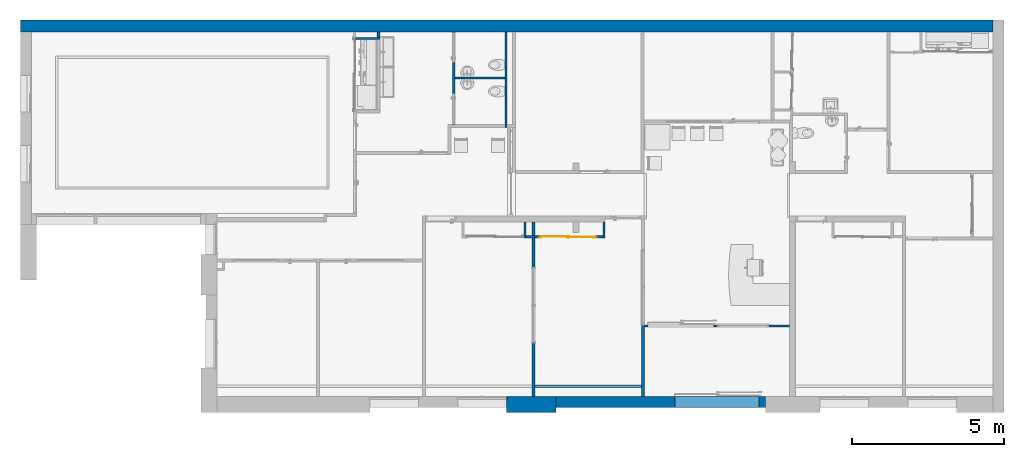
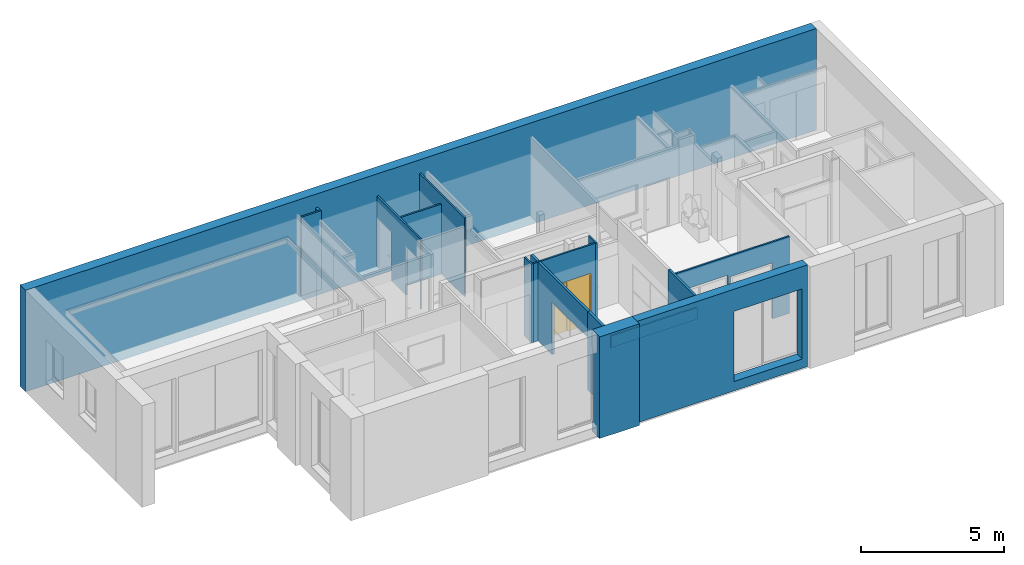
# One storey, part 10 of 32: 18 walls, 1 door, 9 openings.
"""IFC2X3 building model written with IfcOpenShell, lengths in metres."""

from ifc_helpers import new_model, entity, si_unit, converted_unit, derived_unit, direction, frame, frame_2d, origin, origin_2d_with_axis, place, context, subcontext, project, spatial, polyline, circle_curve, parameter, trimmed, segment, composite_curve, rectangle, outline, extrude, faceted_brep, source, transform, mapped, material, material_list, layer, layer_set, layer_usage, type_object, type_shapes, element, fill, save


model = new_model("IFC2X3")

# Units and contexts
model_context = context("Model", 3, precision=1e-05, world=origin(), true_north=direction((6.12303176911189e-17, 1.0)))
plan_context = context("Plan", 3, precision=1e-05, world=origin(), true_north=direction((6.12303176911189e-17, 1.0)))
body_context = subcontext(model_context, "Body", "Model", "MODEL_VIEW")
ifc_project = project(units=[si_unit("LENGTHUNIT", "METRE"), si_unit("AREAUNIT", "SQUARE_METRE"), si_unit("VOLUMEUNIT", "CUBIC_METRE"), converted_unit("PLANEANGLEUNIT", "DEGREE", entity("IfcRatioMeasure", 0.0174532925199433), si_unit("PLANEANGLEUNIT", "RADIAN"), dimensions=[0, 0, 0, 0, 0, 0, 0]), si_unit("MASSUNIT", "GRAM", prefix="KILO"), derived_unit("MASSDENSITYUNIT", [(si_unit("MASSUNIT", "GRAM", prefix="KILO"), 1), (si_unit("LENGTHUNIT", "METRE"), -3)]), derived_unit("MOMENTOFINERTIAUNIT", [(si_unit("LENGTHUNIT", "METRE"), 4)]), si_unit("TIMEUNIT", "SECOND"), si_unit("FREQUENCYUNIT", "HERTZ"), si_unit("THERMODYNAMICTEMPERATUREUNIT", "DEGREE_CELSIUS"), derived_unit("THERMALTRANSMITTANCEUNIT", [(si_unit("MASSUNIT", "GRAM", prefix="KILO"), 1), (si_unit("THERMODYNAMICTEMPERATUREUNIT", "KELVIN"), -1), (si_unit("TIMEUNIT", "SECOND"), -3)]), derived_unit("VOLUMETRICFLOWRATEUNIT", [(si_unit("LENGTHUNIT", "METRE"), 3), (si_unit("TIMEUNIT", "SECOND"), -1)]), si_unit("ELECTRICCURRENTUNIT", "AMPERE"), si_unit("ELECTRICVOLTAGEUNIT", "VOLT"), si_unit("POWERUNIT", "WATT"), si_unit("FORCEUNIT", "NEWTON", prefix="KILO"), si_unit("ILLUMINANCEUNIT", "LUX"), si_unit("LUMINOUSFLUXUNIT", "LUMEN"), si_unit("LUMINOUSINTENSITYUNIT", "CANDELA"), derived_unit("USERDEFINED", [(si_unit("MASSUNIT", "GRAM", prefix="KILO"), -1), (si_unit("LENGTHUNIT", "METRE"), -2), (si_unit("TIMEUNIT", "SECOND"), 3), (si_unit("LUMINOUSFLUXUNIT", "LUMEN"), 1)]), derived_unit("LINEARVELOCITYUNIT", [(si_unit("LENGTHUNIT", "METRE"), 1), (si_unit("TIMEUNIT", "SECOND"), -1)]), si_unit("PRESSUREUNIT", "PASCAL"), derived_unit("USERDEFINED", [(si_unit("LENGTHUNIT", "METRE"), -2), (si_unit("MASSUNIT", "GRAM", prefix="KILO"), 1), (si_unit("TIMEUNIT", "SECOND"), -2)]), derived_unit("LINEARFORCEUNIT", [(si_unit("MASSUNIT", "GRAM", prefix="KILO"), 1), (si_unit("LENGTHUNIT", "METRE"), 1), (si_unit("TIMEUNIT", "SECOND"), -2), (si_unit("LENGTHUNIT", "METRE"), -1)]), derived_unit("PLANARFORCEUNIT", [(si_unit("MASSUNIT", "GRAM", prefix="KILO"), 1), (si_unit("LENGTHUNIT", "METRE"), 1), (si_unit("TIMEUNIT", "SECOND"), -2), (si_unit("LENGTHUNIT", "METRE"), -2)])], contexts=[model_context, plan_context])

# Site, building, storey
site_placement = place(None, origin())
site = spatial("IfcSite", under=ifc_project, at=site_placement, Name="Default", CompositionType="ELEMENT")
building_placement = place(site_placement, origin())
building = spatial("IfcBuilding", under=site, at=building_placement, CompositionType="ELEMENT")
storey_placement = place(building_placement, origin())
storey = spatial("IfcBuildingStorey", under=building, at=storey_placement, Name="0 Mairie RDC 0.00", CompositionType="ELEMENT", Elevation=-1.94916083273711e-14)

# Wall
ifc_material_1 = material(Name="Plâtre")
ifc_layer_1 = layer(ifc_material_1, 0.0125)
ifc_layer_2 = layer(ifc_material_1, 0.0125)
ifc_material_2 = material(Name="Maçonnerie - Isolant")
ifc_layer_3 = layer(ifc_material_2, 0.05)
ifc_layer_4 = layer(ifc_material_1, 0.0125)
ifc_layer_5 = layer(ifc_material_1, 0.0125)
ifc_layer_set_1 = layer_set([ifc_layer_1, ifc_layer_2, ifc_layer_3, ifc_layer_4, ifc_layer_5], Name="Mur de base:A cloison placostil 98 sèche")
ifc_layer_usage_1 = layer_usage(ifc_layer_set_1, "AXIS2", "NEGATIVE", 0.05)
wall_type_1 = type_object("IfcWallType", Name="Murs : Mur de base : A cloison placostil 98 sèche", PredefinedType="STANDARD", material=ifc_layer_set_1)
wall_1_placement = place(storey_placement, frame((-9.75464553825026, -13.9785662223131, 0.0), z_axis=(0.0, 0.0, 1.0), x_axis=(0.0, 1.0, 0.0)))
element("IfcWallStandardCase", 1, at=wall_1_placement, inside=storey, type_object=wall_type_1, material=ifc_layer_usage_1, Name="Murs : Mur de base : A cloison placostil 98 sèche", ObjectType="Mur de base:A cloison placostil 98 sèche", context=body_context, shape_type="SweptSolid", body=[
    extrude(rectangle(XDim=2.34998283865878, YDim=0.0999999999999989, at=frame_2d((1.17499141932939, 0.0), x_axis=(-1.0, 0.0))), origin(), (0.0, 0.0, 1.0), 3.54),
])

# Wall, openings
ifc_layer_usage_2 = layer_usage(ifc_layer_set_1, "AXIS2", "NEGATIVE", 0.05)
wall_2_placement = place(storey_placement, frame((-13.3542550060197, -12.2287534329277, 0.0), z_axis=(0.0, 0.0, 1.0), x_axis=(0.0, 1.0, 0.0)))
wall_2 = element("IfcWallStandardCase", 2, at=wall_2_placement, inside=storey, type_object=wall_type_1, material=ifc_layer_usage_2, Name="Murs : Mur de base : A cloison placostil 98 sèche", ObjectType="Mur de base:A cloison placostil 98 sèche", context=body_context, shape_type="SweptSolid", body=[
    extrude(rectangle(XDim=3.47597684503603, YDim=0.0999999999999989, at=frame_2d((1.73798842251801, 0.0), x_axis=(-1.0, 0.0))), origin(), (0.0, 0.0, 1.0), 3.37),
])
opening_1_placement = place(wall_2_placement, frame((-1.15515589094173e-05, 0.202400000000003, 0.0)))
element("IfcOpeningElement", 3, at=opening_1_placement, cuts=wall_2, Name="Murs : Mur de base : A cloison placostil 98 sèche", ObjectType="Opening", context=body_context, shape_type="SweptSolid", body=[
    extrude(rectangle(XDim=2.25, YDim=2.5, at=origin_2d_with_axis()), frame((1.25, -0.404800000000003, 1.125), z_axis=(0.0, 1.0, 0.0), x_axis=(0.0, 0.0, 1.0)), (0.0, 0.0, 1.0), 0.404800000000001),
])
opening_2_placement = place(wall_2_placement, origin())
element("IfcOpeningElement", 4, at=opening_2_placement, cuts=wall_2, Name="Mur de base:A cloison placostil 98 sèche", ObjectType="Opening", context=body_context, shape_type="SweptSolid", body=[
    extrude(rectangle(XDim=2.08, YDim=2.49998844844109, at=origin_2d_with_axis()), frame((1.24999422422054, 0.0499999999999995, 1.04), z_axis=(0.0, -1.0, 0.0), x_axis=(0.0, 0.0, -1.0)), (0.0, 0.0, 1.0), 0.1),
])

# Walls
ifc_layer_usage_3 = layer_usage(ifc_layer_set_1, "AXIS2", "NEGATIVE", 0.05)
wall_3_placement = place(storey_placement, frame((-13.3542550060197, -13.9785662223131, 0.0), z_axis=(0.0, 0.0, 1.0), x_axis=(0.0, 1.0, 0.0)))
element("IfcWallStandardCase", 5, at=wall_3_placement, inside=storey, type_object=wall_type_1, material=ifc_layer_usage_3, Name="Murs : Mur de base : A cloison placostil 98 sèche", ObjectType="Mur de base:A cloison placostil 98 sèche", context=body_context, shape_type="SweptSolid", body=[
    extrude(rectangle(XDim=1.74981278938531, YDim=0.0999999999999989, at=frame_2d((0.874906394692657, 0.0), x_axis=(-1.0, 0.0))), origin(), (0.0, 0.0, 1.0), 3.37),
])
ifc_layer_usage_4 = layer_usage(ifc_layer_set_1, "AXIS2", "POSITIVE", -0.05)
wall_4_placement = place(storey_placement, frame((-13.3542550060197, -8.23276374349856, 0.0), z_axis=(0.0, 0.0, 1.0), x_axis=(0.0, -1.0, 0.0)))
element("IfcWallStandardCase", 6, at=wall_4_placement, inside=storey, type_object=wall_type_1, material=ifc_layer_usage_4, Name="Murs : Mur de base : A cloison placostil 98 sèche", ObjectType="Mur de base:A cloison placostil 98 sèche", context=body_context, shape_type="SweptSolid", body=[
    extrude(rectangle(XDim=0.450012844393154, YDim=0.0999999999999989, at=frame_2d((0.225006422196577, 0.0), x_axis=(-1.0, 0.0))), origin(), (0.0, 0.0, 1.0), 3.37),
])
ifc_layer_usage_5 = layer_usage(ifc_layer_set_1, "AXIS2", "NEGATIVE", 0.05)
wall_5_placement = place(storey_placement, frame((-18.4621823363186, -2.15276374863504, 0.0), z_axis=(0.0, 0.0, 1.0), x_axis=(0.0, 1.0, 0.0)))
element("IfcWallStandardCase", 7, at=wall_5_placement, inside=storey, type_object=wall_type_1, material=ifc_layer_usage_5, Name="Murs : Mur de base : A cloison placostil 98 sèche", ObjectType="Mur de base:A cloison placostil 98 sèche", context=body_context, shape_type="SweptSolid", body=[
    extrude(rectangle(XDim=0.18000000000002, YDim=0.0999999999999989, at=frame_2d((0.0900000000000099, 1.52655665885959e-16), x_axis=(-1.0, 0.0))), origin(), (0.0, 0.0, 1.0), 3.37),
])

# Wall, openings
ifc_layer_6 = layer(ifc_material_1, 0.01)
ifc_layer_7 = layer(ifc_material_2, 0.05)
ifc_layer_8 = layer(ifc_material_1, 0.01)
ifc_layer_set_2 = layer_set([ifc_layer_6, ifc_layer_7, ifc_layer_8], Name="Mur de base:A cloison placostil 72 sèche")
ifc_layer_usage_6 = layer_usage(ifc_layer_set_2, "AXIS2", "POSITIVE", -0.035)
wall_type_2 = type_object("IfcWallType", Name="Murs : Mur de base : A cloison placostil 72 sèche", PredefinedType="STANDARD", material=ifc_layer_set_2)
wall_6_placement = place(storey_placement, frame((-9.70464553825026, -11.6635833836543, 0.0)))
wall_6 = element("IfcWallStandardCase", 8, at=wall_6_placement, inside=storey, type_object=wall_type_2, material=ifc_layer_usage_6, Name="Murs : Mur de base : A cloison placostil 72 sèche", ObjectType="Mur de base:A cloison placostil 72 sèche", context=body_context, shape_type="SweptSolid", body=[
    extrude(rectangle(XDim=4.77714883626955, YDim=0.0700000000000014, at=frame_2d((2.38857441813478, 0.0), x_axis=(-1.0, 0.0))), origin(), (0.0, 0.0, 1.0), 3.3),
])
opening_3_placement = place(wall_6_placement, frame((4.09925722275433, 0.0350000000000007, 0.0)))
element("IfcOpeningElement", 9, at=opening_3_placement, cuts=wall_6, Name="Fenêtres : WINDSOR Window Fixed Signature : Fixed-Window_B02M1S100100-White 170:1", ObjectType="Opening", context=body_context, shape_type="SweptSolid", body=[
    extrude(rectangle(XDim=2.4, YDim=1.7, at=frame_2d((1.2, 0.85), x_axis=(-1.0, 0.0))), frame((0.0, 0.0, 0.0), z_axis=(0.0, -1.0, 0.0), x_axis=(0.0, 0.0, 1.0)), (0.0, 0.0, 1.0), 0.07),
])
opening_4_placement = place(wall_6_placement, frame((2.27999999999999, 0.0350000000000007, 0.0)))
element("IfcOpeningElement", 10, at=opening_4_placement, cuts=wall_6, Name="Portes : Automatic-Door_Single_Gilgen_SL-PSXP_With-Side-Panel_On-Wall : Automatic-Door_Single_Gilgen_SL-PSXP_ht2,50m:1", ObjectType="Opening", context=body_context, shape_type="SweptSolid", body=[
    extrude(rectangle(XDim=2.50000000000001, YDim=2.16, at=frame_2d((1.25, 1.08), x_axis=(1.0, 0.0))), frame((0.0, 0.0, 0.0), z_axis=(0.0, -1.0, 0.0), x_axis=(0.0, 0.0, 1.0)), (0.0, 0.0, 1.0), 0.07),
])

# Wall
ifc_layer_usage_7 = layer_usage(ifc_layer_set_2, "AXIS2", "NEGATIVE", 0.035)
wall_7_placement = place(storey_placement, frame((-11.0381086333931, -8.75261308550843, 0.0), z_axis=(0.0, 0.0, 1.0), x_axis=(0.0, 1.0, 0.0)))
element("IfcWallStandardCase", 11, at=wall_7_placement, inside=storey, type_object=wall_type_2, material=ifc_layer_usage_7, Name="Murs : Mur de base : A cloison placostil 72 sèche", ObjectType="Mur de base:A cloison placostil 72 sèche", context=body_context, shape_type="SweptSolid", body=[
    extrude(rectangle(XDim=0.51984934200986, YDim=0.0700000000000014, at=frame_2d((0.25992467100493, 0.0), x_axis=(-1.0, 0.0))), origin(), (0.0, 0.0, 1.0), 3.37),
])

# Wall, opening, door
ifc_layer_usage_8 = layer_usage(ifc_layer_set_2, "AXIS2", "NEGATIVE", 0.035)
wall_8_placement = place(storey_placement, frame((-13.3042550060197, -8.71761308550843, 0.0)))
wall_8 = element("IfcWallStandardCase", 12, at=wall_8_placement, inside=storey, type_object=wall_type_2, material=ifc_layer_usage_8, Name="Murs : Mur de base : A cloison placostil 72 sèche", ObjectType="Mur de base:A cloison placostil 72 sèche", context=body_context, shape_type="SweptSolid", body=[
    extrude(rectangle(XDim=2.23114637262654, YDim=0.0699999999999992, at=frame_2d((1.11557318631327, 2.77555756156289e-16), x_axis=(-1.0, 0.0))), origin(), (0.0, 0.0, 1.0), 3.37),
])
opening_5_placement = place(wall_8_placement, frame((1.99057318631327, 0.0350000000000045, 0.0)))
opening_5 = element("IfcOpeningElement", 13, at=opening_5_placement, cuts=wall_8, Name="Portes : Placard coulissante - 2 panneaux : Placard coulissante - 2 panneaux 1.80:1", ObjectType="Opening", context=body_context, shape_type="SweptSolid", body=[
    extrude(rectangle(XDim=2.09999999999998, YDim=1.8, at=frame_2d((1.04999999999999, 0.9), x_axis=(1.0, 0.0))), frame((0.0, 0.0, 0.0), z_axis=(0.0, -1.0, 0.0), x_axis=(0.0, 0.0, 1.0)), (0.0, 0.0, 1.0), 0.07),
])
ifc_material_3 = material(Name="Placard - Profil")
ifc_material_4 = material(Name="Placard - Encadrement")
ifc_material_5 = material(Name="Placard - Porte")
ifc_material_list_1 = material_list([ifc_material_3, ifc_material_4, ifc_material_5])
ifc_material_list_2 = material_list([ifc_material_3, ifc_material_3, ifc_material_3, ifc_material_3, ifc_material_4, ifc_material_5, ifc_material_5])
door_style = type_object("IfcDoorStyle", Name="Portes : Placard coulissante - 2 panneaux : Placard coulissante - 2 panneaux 1.80", ConstructionType="NOTDEFINED", OperationType="SLIDING_TO_RIGHT", ParameterTakesPrecedence=False, Sizeable=False, material=ifc_material_list_2)
shared_shape = source(origin(), body_context, "Body", "SweptSolid", [
    extrude(outline(composite_curve([segment(polyline([(-0.0250000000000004, -0.00100000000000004), (0.0249999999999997, -0.00100000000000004)]), True, "CONTINUOUS"), segment(polyline([(0.0249999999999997, -0.00100000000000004), (0.0249999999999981, 0.00100000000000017)]), True, "CONTINUOUS"), segment(trimmed(circle_curve(frame_2d((0.0, -0.212860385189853), x_axis=(-1.0, 0.0)), 0.215316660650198), [parameter(263.332459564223)], [parameter(276.667540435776)], True, "PARAMETER"), True, "CONTINUOUS"), segment(polyline([(-0.0250000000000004, 0.00100000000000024), (-0.0250000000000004, -0.00100000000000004)]), True, "CONTINUOUS")], self_intersect=False)), frame((1.775, 0.0089999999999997, 0.0), z_axis=(0.0, 0.0, 1.0), x_axis=(-1.0, 0.0, 0.0)), (0.0, 0.0, 1.0), 2.1),
    extrude(outline(composite_curve([segment(polyline([(-0.0250000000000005, -0.00100000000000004), (0.0249999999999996, -0.00100000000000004)]), True, "CONTINUOUS"), segment(polyline([(0.0249999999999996, -0.00100000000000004), (0.0249999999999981, 0.00100000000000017)]), True, "CONTINUOUS"), segment(trimmed(circle_curve(frame_2d((0.0, -0.212860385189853), x_axis=(-1.0, 0.0)), 0.215316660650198), [parameter(263.332459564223)], [parameter(276.667540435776)], True, "PARAMETER"), True, "CONTINUOUS"), segment(polyline([(-0.0250000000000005, 0.00100000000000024), (-0.0250000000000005, -0.00100000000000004)]), True, "CONTINUOUS")], self_intersect=False)), frame((0.899999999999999, 0.00900000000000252, 0.0), z_axis=(0.0, 0.0, 1.0), x_axis=(-1.0, 0.0, 0.0)), (0.0, 0.0, 1.0), 2.1),
    extrude(outline(composite_curve([segment(polyline([(-0.0250000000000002, -0.00100000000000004), (0.0249999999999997, -0.00100000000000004)]), True, "CONTINUOUS"), segment(polyline([(0.0249999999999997, -0.00100000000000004), (0.0249999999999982, 0.00100000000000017)]), True, "CONTINUOUS"), segment(trimmed(circle_curve(frame_2d((0.0, -0.212860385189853), x_axis=(-1.0, 0.0)), 0.215316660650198), [parameter(263.332459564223)], [parameter(276.667540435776)], True, "PARAMETER"), True, "CONTINUOUS"), segment(polyline([(-0.0250000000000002, 0.00100000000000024), (-0.0250000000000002, -0.00100000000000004)]), True, "CONTINUOUS")], self_intersect=False)), frame((0.899999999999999, 0.0340000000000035, 0.0), z_axis=(0.0, 0.0, 1.0), x_axis=(-1.0, 0.0, 0.0)), (0.0, 0.0, 1.0), 2.1),
    extrude(outline(composite_curve([segment(polyline([(-0.0250000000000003, -0.00100000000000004), (0.0249999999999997, -0.00100000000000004)]), True, "CONTINUOUS"), segment(polyline([(0.0249999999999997, -0.00100000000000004), (0.0249999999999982, 0.00100000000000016)]), True, "CONTINUOUS"), segment(trimmed(circle_curve(frame_2d((0.0, -0.212860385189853), x_axis=(-1.0, 0.0)), 0.215316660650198), [parameter(263.332459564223)], [parameter(276.667540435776)], True, "PARAMETER"), True, "CONTINUOUS"), segment(polyline([(-0.0250000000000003, 0.00100000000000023), (-0.0250000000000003, -0.00100000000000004)]), True, "CONTINUOUS")], self_intersect=False)), frame((0.0249999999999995, 0.0340000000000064, 0.0), z_axis=(0.0, 0.0, 1.0), x_axis=(-1.0, 0.0, 0.0)), (0.0, 0.0, 1.0), 2.1),
    extrude(outline(polyline([(-1.06149999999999, -0.948), (1.08649999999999, -0.948), (1.08649999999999, 0.948), (-1.06149999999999, 0.948), (-1.06149999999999, 0.898), (1.03649999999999, 0.898), (1.03649999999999, -0.898), (-1.06149999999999, -0.898), (-1.06149999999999, -0.948)])), frame((0.9, -0.00300000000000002, 1.06149999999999), z_axis=(0.0, 1.0, 0.0), x_axis=(0.0, 0.0, 1.0)), (0.0, 0.0, 1.0), 0.00300000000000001),
    extrude(rectangle(XDim=0.020000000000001, YDim=0.925000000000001, at=frame_2d((0.0, -8.32667268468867e-17), x_axis=(1.0, 0.0))), frame((1.3375, 0.0200000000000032, 0.0), z_axis=(0.0, 0.0, 1.0), x_axis=(0.0, 1.0, 0.0)), (0.0, 0.0, 1.0), 2.1),
    extrude(rectangle(XDim=0.02, YDim=0.924999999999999, at=origin_2d_with_axis()), frame((0.462499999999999, 0.0450000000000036, 0.0), z_axis=(0.0, 0.0, 1.0), x_axis=(0.0, 1.0, 0.0)), (0.0, 0.0, 1.0), 2.1),
])
type_shapes(door_style, [shared_shape])
door_placement = place(opening_5_placement, frame((-1.8, -0.0700000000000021, 0.0)))
door = element("IfcDoor", 14, at=door_placement, inside=storey, type_object=door_style, material=ifc_material_list_1, Name="Portes : Placard coulissante - 2 panneaux : Placard coulissante - 2 panneaux 1.80", ObjectType="Placard coulissante - 2 panneaux:Placard coulissante - 2 panneaux 1.80", OverallHeight=2.09999999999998, OverallWidth=1.8, context=body_context, shape_type="MappedRepresentation", body=[
    mapped(shared_shape, transform((0.0, 0.0, 0.0), scale=1.0)),
])
fill(opening_5, door)

# Walls
ifc_layer_usage_9 = layer_usage(ifc_layer_set_2, "AXIS2", "POSITIVE", -0.035)
wall_9_placement = place(storey_placement, frame((-18.4121823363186, -2.18776374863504, 0.0), z_axis=(0.0, 0.0, 1.0), x_axis=(-1.0, 0.0, 0.0)))
element("IfcWallStandardCase", 15, at=wall_9_placement, inside=storey, type_object=wall_type_2, material=ifc_layer_usage_9, Name="Murs : Mur de base : A cloison placostil 72 sèche", ObjectType="Mur de base:A cloison placostil 72 sèche", context=body_context, shape_type="SweptSolid", body=[
    extrude(rectangle(XDim=0.800000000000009, YDim=0.0699999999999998, at=frame_2d((0.400000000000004, 2.08166817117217e-17), x_axis=(-1.0, 0.0))), origin(), (0.0, 0.0, 1.0), 3.37),
])
ifc_layer_usage_10 = layer_usage(ifc_layer_set_2, "AXIS2", "NEGATIVE", 0.035)
wall_10_placement = place(storey_placement, frame((-14.2617760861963, -1.97276374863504, 0.0), z_axis=(0.0, 0.0, 1.0), x_axis=(0.0, -1.0, 0.0)))
element("IfcWallStandardCase", 16, at=wall_10_placement, inside=storey, type_object=wall_type_2, material=ifc_layer_usage_10, Name="Murs : Mur de base : A cloison placostil 72 sèche", ObjectType="Mur de base:A cloison placostil 72 sèche", context=body_context, shape_type="SweptSolid", body=[
    extrude(rectangle(XDim=3.1471581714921, YDim=0.0700000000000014, at=frame_2d((1.57357908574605, 7.28583859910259e-17), x_axis=(-1.0, 0.0))), origin(), (0.0, 0.0, 1.0), 3.37),
])

# Wall, openings
ifc_layer_usage_11 = layer_usage(ifc_layer_set_2, "AXIS2", "NEGATIVE", 0.035)
wall_11_placement = place(storey_placement, frame((-15.9809503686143, -1.97276374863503, 0.0), z_axis=(0.0, 0.0, 1.0), x_axis=(0.0, -1.0, 0.0)))
wall_11 = element("IfcWallStandardCase", 17, at=wall_11_placement, inside=storey, type_object=wall_type_2, material=ifc_layer_usage_11, Name="Murs : Mur de base : A cloison placostil 72 sèche", ObjectType="Mur de base:A cloison placostil 72 sèche", context=body_context, shape_type="SweptSolid", body=[
    extrude(rectangle(XDim=3.04715817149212, YDim=0.0700000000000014, at=frame_2d((1.52357908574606, -1.73472347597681e-17), x_axis=(-1.0, 0.0))), origin(), (0.0, 0.0, 1.0), 3.0),
])
opening_6_placement = place(wall_11_placement, frame((1.01499999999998, 0.0349999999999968, 0.0)))
element("IfcOpeningElement", 18, at=opening_6_placement, cuts=wall_11, Name="Portes : Int. Simple : PP (0.89m x 2.04m):1", ObjectType="Opening", context=body_context, shape_type="SweptSolid", body=[
    extrude(rectangle(XDim=2.075, YDim=1.0, at=frame_2d((1.0375, 0.5), x_axis=(1.0, 0.0))), frame((0.0, 0.0, 0.0), z_axis=(0.0, -1.0, 0.0), x_axis=(0.0, 0.0, 1.0)), (0.0, 0.0, 1.0), 0.07),
])
opening_7_placement = place(wall_11_placement, frame((3.03215817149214, 0.0349999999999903, 0.0)))
element("IfcOpeningElement", 19, at=opening_7_placement, cuts=wall_11, Name="Portes : Int. Simple : PP (0.89m x 2.04m):1", ObjectType="Opening", context=body_context, shape_type="SweptSolid", body=[
    extrude(rectangle(XDim=2.075, YDim=1.0, at=frame_2d((1.0375, 0.5), x_axis=(1.0, 0.0))), frame((0.0, 0.0, 0.0), z_axis=(0.0, -1.0, 0.0), x_axis=(0.0, 0.0, 1.0)), (0.0, 0.0, 1.0), 0.07),
])

# Walls
ifc_layer_usage_12 = layer_usage(ifc_layer_set_2, "AXIS2", "NEGATIVE", 0.035)
wall_12_placement = place(storey_placement, frame((-15.9459503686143, -3.48634283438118, 0.0)))
element("IfcWallStandardCase", 20, at=wall_12_placement, inside=storey, type_object=wall_type_2, material=ifc_layer_usage_12, Name="Murs : Mur de base : A cloison placostil 72 sèche", ObjectType="Mur de base:A cloison placostil 72 sèche", context=body_context, shape_type="SweptSolid", body=[
    extrude(rectangle(XDim=1.64917428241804, YDim=0.0700000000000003, at=frame_2d((0.82458714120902, -1.73472347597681e-17), x_axis=(-1.0, 0.0))), origin(), (0.0, 0.0, 1.0), 3.0),
])
ifc_layer_usage_13 = layer_usage(ifc_layer_set_2, "AXIS2", "NEGATIVE", 0.035)
wall_13_placement = place(storey_placement, frame((-13.6368498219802, -8.23276374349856, 0.0), z_axis=(0.0, 0.0, 1.0), x_axis=(0.0, -1.0, 0.0)))
element("IfcWallStandardCase", 21, at=wall_13_placement, inside=storey, type_object=wall_type_2, material=ifc_layer_usage_13, Name="Murs : Mur de base : A cloison placostil 72 sèche", ObjectType="Mur de base:A cloison placostil 72 sèche", context=body_context, shape_type="SweptSolid", body=[
    extrude(rectangle(XDim=0.520012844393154, YDim=0.0700000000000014, at=frame_2d((0.260006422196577, 0.0), x_axis=(-1.0, 0.0))), origin(), (0.0, 0.0, 1.0), 3.37),
])
ifc_layer_usage_14 = layer_usage(ifc_layer_set_2, "AXIS2", "NEGATIVE", 0.035)
wall_14_placement = place(storey_placement, frame((-13.6018498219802, -8.71777658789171, 0.0)))
element("IfcWallStandardCase", 22, at=wall_14_placement, inside=storey, type_object=wall_type_2, material=ifc_layer_usage_14, Name="Murs : Mur de base : A cloison placostil 72 sèche", ObjectType="Mur de base:A cloison placostil 72 sèche", context=body_context, shape_type="SweptSolid", body=[
    extrude(rectangle(XDim=0.297594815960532, YDim=0.0699999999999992, at=frame_2d((0.148797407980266, -2.67147415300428e-16), x_axis=(-1.0, 0.0))), origin(), (0.0, 0.0, 1.0), 3.37),
])
ifc_layer_usage_15 = layer_usage(ifc_layer_set_2, "AXIS2", "POSITIVE", -0.035)
wall_15_placement = place(storey_placement, frame((-13.3042550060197, -13.6435662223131, 2.65)))
element("IfcWallStandardCase", 23, at=wall_15_placement, inside=storey, type_object=wall_type_2, material=ifc_layer_usage_15, Name="Murs : Mur de base : A cloison placostil 72 sèche", ObjectType="Mur de base:A cloison placostil 72 sèche", context=body_context, shape_type="SweptSolid", body=[
    extrude(rectangle(XDim=3.49960946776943, YDim=0.0700000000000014, at=frame_2d((1.74980473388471, 1.07552855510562e-16), x_axis=(-1.0, 0.0))), origin(), (0.0, 0.0, 1.0), 0.510000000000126),
])

# Wall, opening
ifc_material_6 = material(Name="Maçonnerie - Enduit")
ifc_layer_9 = layer(ifc_material_6, 0.02)
ifc_material_7 = material(Name="Béton, coulé sur place")
ifc_layer_10 = layer(ifc_material_7, 0.2)
ifc_material_8 = material(Name="Vide")
ifc_layer_11 = layer(ifc_material_8, 0.01)
ifc_layer_12 = layer(ifc_material_2, 0.12)
ifc_layer_13 = layer(ifc_material_1, 0.01)
ifc_layer_set_3 = layer_set([ifc_layer_9, ifc_layer_10, ifc_layer_11, ifc_layer_12, ifc_layer_13], Name="Mur de base:A Enduit 2 + Béton 20 + vide 1 +  Doublage 13")
ifc_layer_usage_16 = layer_usage(ifc_layer_set_3, "AXIS2", "POSITIVE", -0.18)
wall_type_3 = type_object("IfcWallType", Name="Murs : Mur de base : A Enduit 2 + Béton 20 + vide 1 +  Doublage 13", PredefinedType="STANDARD", material=ifc_layer_set_3)
wall_16_placement = place(storey_placement, frame((-12.6185500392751, -14.158566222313, -0.400000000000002)))
wall_16 = element("IfcWallStandardCase", 24, at=wall_16_placement, inside=storey, type_object=wall_type_3, material=ifc_layer_usage_16, Name="Murs : Mur de base : A Enduit 2 + Béton 20 + vide 1 +  Doublage 13", ObjectType="Mur de base:A Enduit 2 + Béton 20 + vide 1 +  Doublage 13", context=body_context, shape_type="SweptSolid", body=[
    extrude(rectangle(XDim=6.90008941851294, YDim=0.36, at=frame_2d((3.45004470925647, 0.0), x_axis=(-1.0, 0.0))), origin(), (0.0, 0.0, 1.0), 4.35000000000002),
])
opening_8_placement = place(wall_16_placement, frame((6.68390450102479, 0.179999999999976, 0.399999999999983)))
element("IfcOpeningElement", 25, at=opening_8_placement, cuts=wall_16, Name="Portes : Automatic-Door_Single_Gilgen_SL-PSXP_With-Side-Panel_On-Wall : Automatic-Door_Single_Gilgen_SL-PSXP_ht3,00m:1", ObjectType="Opening", context=body_context, shape_type="SweptSolid", body=[
    extrude(rectangle(XDim=3.00000000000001, YDim=2.76, at=frame_2d((1.5, 1.38), x_axis=(1.0, 0.0))), frame((0.0, 0.0, 0.0), z_axis=(0.0, -1.0, 0.0), x_axis=(0.0, 0.0, 1.0)), (0.0, 0.0, 1.0), 0.36),
])

ifc_material_9 = material(Name="Moellons")
ifc_layer_14 = layer(ifc_material_9, 0.19)
ifc_layer_15 = layer(ifc_material_7, 0.2)
ifc_layer_16 = layer(ifc_material_8, 0.01)
ifc_layer_17 = layer(ifc_material_2, 0.12)
ifc_layer_18 = layer(ifc_material_1, 0.01)
ifc_layer_set_4 = layer_set([ifc_layer_14, ifc_layer_15, ifc_layer_16, ifc_layer_17, ifc_layer_18], Name="Mur de base:A Parement pierre 19 + Béton 20 + vide 1 +   Doublage 14")
ifc_layer_usage_17 = layer_usage(ifc_layer_set_4, "AXIS2", "POSITIVE", -0.265)
wall_type_4 = type_object("IfcWallType", Name="Murs : Mur de base : A Parement pierre 19 + Béton 20 + vide 1 +   Doublage 14", PredefinedType="STANDARD", material=ifc_layer_set_4)
wall_17_placement = place(storey_placement, frame((-14.2386355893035, -14.2435662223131, -0.400000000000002)))
wall_17 = element("IfcWallStandardCase", 26, at=wall_17_placement, inside=storey, type_object=wall_type_4, material=ifc_layer_usage_17, Name="Murs : Mur de base : A Parement pierre 19 + Béton 20 + vide 1 +   Doublage 14", ObjectType="Mur de base:A Parement pierre 19 + Béton 20 + vide 1 +   Doublage 14", context=body_context, shape_type="SweptSolid", body=[
    extrude(rectangle(XDim=1.62008555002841, YDim=0.530000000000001, at=frame_2d((0.810042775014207, 0.0), x_axis=(-1.0, 0.0))), origin(), (0.0, 0.0, 1.0), 4.35000000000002),
])
opening_9_placement = place(wall_17_placement, frame((-1.65, -0.415000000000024, 0.400000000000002)))
element("IfcOpeningElement", 27, at=opening_9_placement, cuts=wall_17, Name="Murs : Mur de base : A Parement pierre 19 + Béton 20 + vide 1 +   Doublage 14", ObjectType="Opening", context=body_context, shape_type="Brep", body=[
    faceted_brep([(1.65, 0.599999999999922, 0.035), (1.65, 0.579999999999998, 0.035), (1.65, 0.579999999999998, 3.185), (1.65, 0.0, 3.185), (1.65, 0.0, 0.0), (1.65, 0.266997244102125, 0.0), (0.0500000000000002, 1.0, 0.0350000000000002), (0.0499999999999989, 0.680000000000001, 0.0350000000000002), (0.0499999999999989, 0.680000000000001, 3.185), (0.0500000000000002, 1.0, 3.185), (1.65, 1.0, 0.0350000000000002), (1.65, 0.680000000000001, 0.0350000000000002), (1.7, 0.680000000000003, 0.0350000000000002), (1.7, 0.630000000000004, 0.0350000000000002), (1.66, 0.630000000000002, 0.0350000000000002), (1.66, 0.579999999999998, 0.0350000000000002), (0.0499999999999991, 0.599999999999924, 0.0349999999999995), (0.0499999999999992, 0.58, 0.0350000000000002), (0.0399999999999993, 0.58, 0.0350000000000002), (0.0399999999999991, 0.630000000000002, 0.0350000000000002), (0.0, 0.630000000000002, 0.0350000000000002), (0.0, 0.680000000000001, 0.0350000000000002), (1.65, 1.0, 3.185), (0.0499999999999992, 0.579999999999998, 3.185), (0.0499999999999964, 0.0, 3.185), (0.0499999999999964, 0.0, 0.0), (0.0499999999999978, 0.266997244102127, 0.0), (1.7, 0.680000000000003, 3.235), (1.7, 0.630000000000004, 3.235), (0.0, 0.630000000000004, 3.235), (0.0399999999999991, 0.630000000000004, 3.195), (1.66, 0.630000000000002, 3.195), (1.66, 0.579999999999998, 3.195), (0.0399999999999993, 0.58, 3.195), (1.65, 0.680000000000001, 3.185), (0.0, 0.680000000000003, 3.235)], [[[0, 1, 2, 3, 4, 5]], [[6, 7, 8, 9]], [[10, 11, 12, 13, 14, 15, 1, 0, 16, 17, 18, 19, 20, 21, 7, 6]], [[10, 6, 9, 22]], [[3, 2, 23, 24]], [[3, 24, 25, 4]], [[4, 25, 26, 5]], [[5, 26, 16, 0]], [[12, 27, 28, 13]], [[13, 28, 29, 20, 19, 30, 31, 14]], [[14, 31, 32, 15]], [[15, 32, 33, 18, 17, 23, 2, 1]], [[11, 34, 8, 7, 21, 35, 27, 12]], [[27, 35, 29, 28]], [[30, 33, 32, 31]], [[29, 35, 21, 20]], [[19, 18, 33, 30]], [[9, 8, 34, 22]], [[24, 23, 17, 16, 26, 25]], [[22, 34, 11, 10]]]),
])

# Wall
ifc_layer_19 = layer(ifc_material_7, 0.25)
ifc_layer_20 = layer(ifc_material_8, 0.01)
ifc_layer_21 = layer(ifc_material_2, 0.12)
ifc_layer_22 = layer(ifc_material_1, 0.01)
ifc_layer_set_5 = layer_set([ifc_layer_19, ifc_layer_20, ifc_layer_21, ifc_layer_22], Name="Mur de base:A  Béton 25 + vide 1 + Doublage 15")
ifc_layer_usage_18 = layer_usage(ifc_layer_set_5, "AXIS2", "POSITIVE", -0.195)
wall_type_5 = type_object("IfcWallType", Name="Murs : Mur de base : A  Béton 25 + vide 1 + Doublage 15", PredefinedType="STANDARD", material=ifc_layer_set_5)
wall_18_placement = place(storey_placement, frame((1.77761560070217, -1.7777637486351, -0.400000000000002), z_axis=(0.0, 0.0, 1.0), x_axis=(-1.0, 0.0, 0.0)))
element("IfcWallStandardCase", 28, at=wall_18_placement, inside=storey, type_object=wall_type_5, material=ifc_layer_usage_18, Name="Murs : Mur de base : A  Béton 25 + vide 1 + Doublage 15", ObjectType="Mur de base:A  Béton 25 + vide 1 + Doublage 15", context=body_context, shape_type="SweptSolid", body=[
    extrude(rectangle(XDim=32.0246305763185, YDim=0.39, at=frame_2d((16.0123152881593, -6.93889390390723e-17), x_axis=(-1.0, 0.0))), origin(), (0.0, 0.0, 1.0), 4.35000000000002),
])

save(model, "model.ifc")
